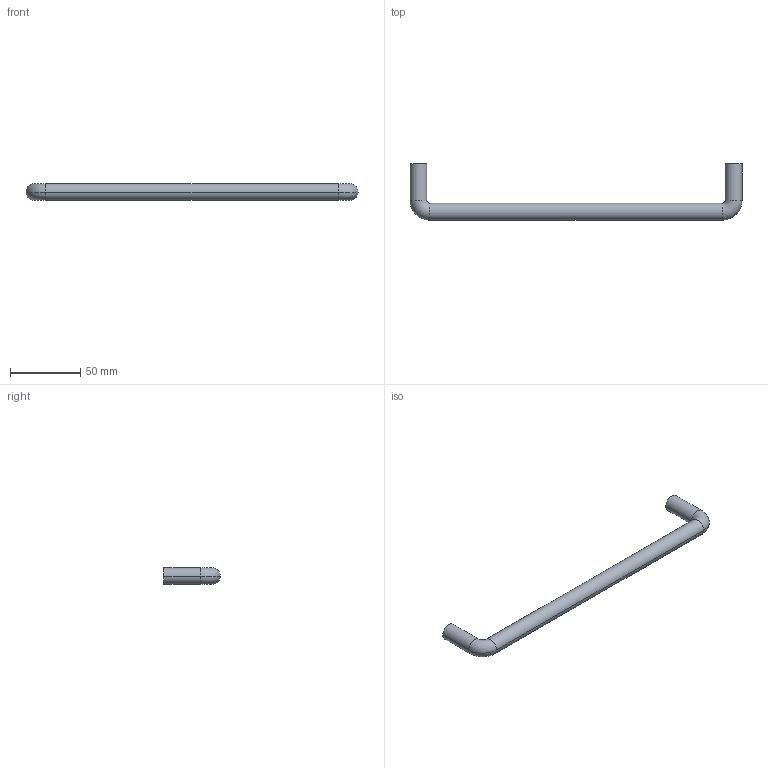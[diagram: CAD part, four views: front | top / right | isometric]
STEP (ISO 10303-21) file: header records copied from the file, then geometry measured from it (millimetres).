
FILE_DESCRIPTION( ( '' ), '1' );
FILE_NAME( 'C:/Documents and Settings/Sachin/Desktop/Sheet 10_1/stp/9070118.stp', '2013-10-22T07:27:03', ( '' ), ( '' ), ' ', ' ', ' ' );
FILE_SCHEMA( ( 'CONFIG_CONTROL_DESIGN' ) );
Length unit declared in the file: millimetre
Products named in the file (1): 1
Bounding box: 236 x 40 x 12 mm (x, y, z)
Volume: 31996.4 mm3; surface area: 11226.8 mm2
Topology: 1 solids, 1 shells, 18 faces, 34 edges, 20 vertices
Faces by surface type: cylinder 10, torus 4, plane 4
Entity records: 502 total; most frequent: DIRECTION 96, CARTESIAN_POINT 73, ORIENTED_EDGE 68, AXIS2_PLACEMENT_3D 43, EDGE_CURVE 34, CIRCLE 24, EDGE_LOOP 20, VERTEX_POINT 20
